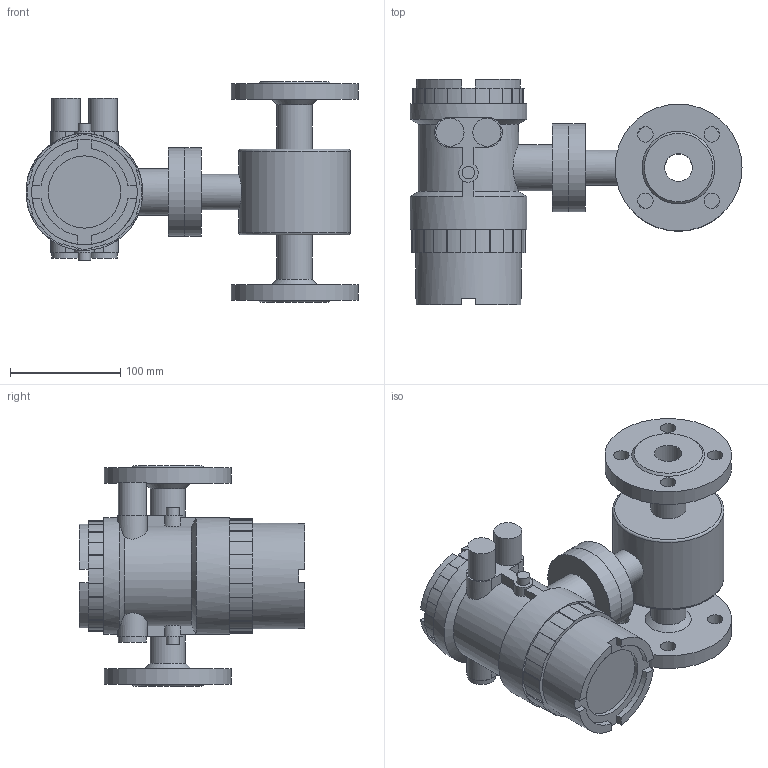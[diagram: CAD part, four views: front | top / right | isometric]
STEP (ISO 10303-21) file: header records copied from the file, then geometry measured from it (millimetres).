
FILE_DESCRIPTION( (''), '2;1');
FILE_NAME( 'QMKC_DN25.step', '2026-08-03T17:48:47+08:00', (''), (''), '', '', '');
FILE_SCHEMA (('AUTOMOTIVE_DESIGN { 1 0 10303 214 3 1 1 1 }'));
Length unit declared in the file: millimetre
Products named in the file (1): QMKC DN25
Bounding box: 300.75 x 204 x 200 mm (x, y, z)
Volume: 2633281.7 mm3; surface area: 243549.9 mm2
Topology: 2 solids, 2 shells, 218 faces, 580 edges, 390 vertices
Faces by surface type: plane 112, cylinder 96, cone 8, torus 2
Full cylindrical faces by diameter (mm): 11.6 x2, 14 x8, 25 x1, 25.5 x4, 32 x3, 42 x1, 65.5 x1, 80 x2, 95.5 x1, 101 x1, 105.9 x2, 115 x2
Entity records: 6724 total; most frequent: CARTESIAN_POINT 1291, DIRECTION 1150, ORIENTED_EDGE 1058, EDGE_CURVE 529, AXIS2_PLACEMENT_3D 426, VERTEX_POINT 373, LINE 298, VECTOR 298
